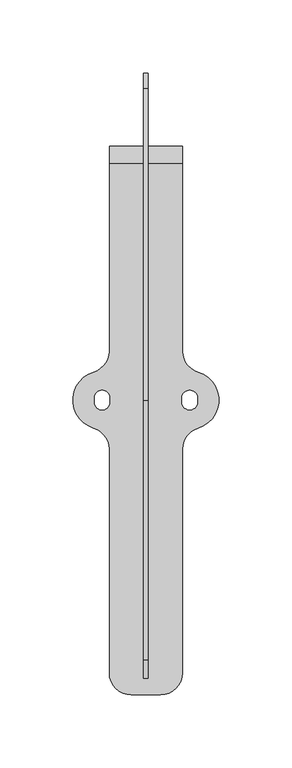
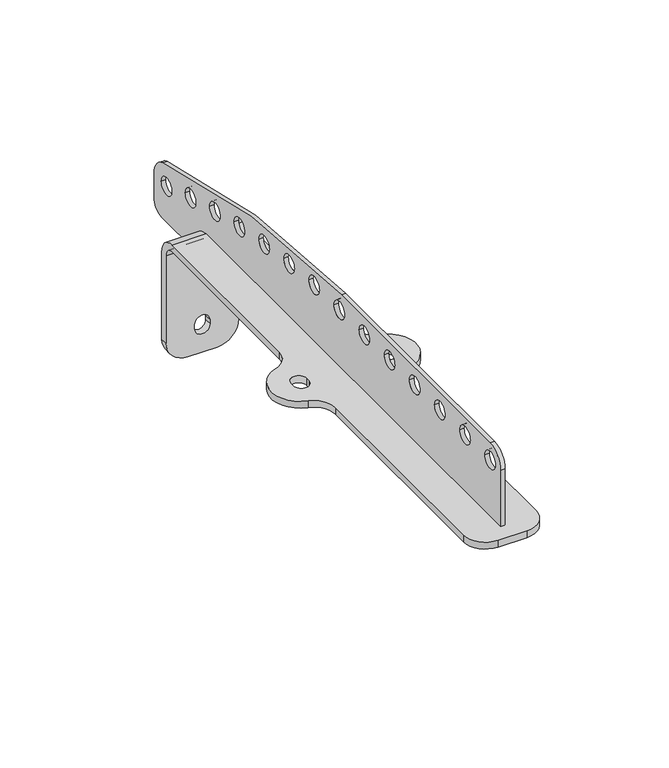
"""IFC4 building model written with IfcOpenShell, lengths in millimetres: proxy geometry, d&b VP Flying Adapter : VP Flying Adapter."""

import ifcopenshell
import ifcopenshell.guid

model = None  # the IFC model being written
_history = None  # IfcOwnerHistory: only IFC2X3 demands one
_inside = {}  # id of a spatial element -> (the spatial element, [elements in it])
_under = {}  # id of a project, library or spatial element -> (it, [spatial elements below it])
_declared = {}  # id of a project -> (the project, [libraries it declares])
_typed = {}  # id of a type object -> (the type object, [elements of that type])
_made_of = {}  # id of a material, layer set ... -> (it, [elements and type objects made of it])


def new_model(schema):
    """Start an empty IFC model of exactly this schema.

    Asked for "IFC4X3", IfcOpenShell would pick the latest addendum, in which some entities
    have other attributes; the version numbers below select the first issue.
    IFC2X3 requires an IfcOwnerHistory on every rooted entity: one is made here for all.
    """
    global model, _history
    if schema == "IFC4X3":
        model = ifcopenshell.file(schema_version=(4, 3, 0, 0))
    else:
        model = ifcopenshell.file(schema=schema)
    _inside.clear()
    _under.clear()
    _declared.clear()
    _typed.clear()
    _made_of.clear()
    _history = None
    if model.schema == "IFC2X3":
        org = make("IfcOrganization", Name="unknown")
        user = make(
            "IfcPersonAndOrganization",
            ThePerson=make("IfcPerson", FamilyName="unknown"),
            TheOrganization=org,
        )
        app = make(
            "IfcApplication",
            ApplicationDeveloper=org,
            Version="unknown",
            ApplicationFullName="unknown",
            ApplicationIdentifier="unknown",
        )
        _history = make(
            "IfcOwnerHistory",
            OwningUser=user,
            OwningApplication=app,
            ChangeAction="ADDED",
            CreationDate=0,
        )
    return model


def make(cls, **values):
    """One entity of the class cls with the attributes given. An attribute that is None is left unset."""
    return model.create_entity(
        cls, **{name: value for name, value in values.items() if value is not None}
    )


def rooted(cls, **values):
    """An entity with a GlobalId (a new one), such as an element, a storey or a relation."""
    return make(cls, GlobalId=ifcopenshell.guid.new(), OwnerHistory=_history, **values)


def si_unit(unit_type, name, prefix=None):
    """IfcSIUnit, for example si_unit("LENGTHUNIT", "METRE", prefix="MILLI")."""
    return make("IfcSIUnit", UnitType=unit_type, Prefix=prefix, Name=name)


def assignment(units):
    """IfcUnitAssignment: the units of a project."""
    return None if units is None else make("IfcUnitAssignment", Units=units)


def point(xyz):
    """IfcCartesianPoint."""
    return None if xyz is None else make("IfcCartesianPoint", Coordinates=xyz)


def direction(xyz):
    """IfcDirection."""
    return None if xyz is None else make("IfcDirection", DirectionRatios=xyz)


def frame(location, z_axis=None, x_axis=None):
    """IfcAxis2Placement3D, a coordinate frame: its origin and axes. An axis left out is left unset."""
    return make(
        "IfcAxis2Placement3D",
        Location=point(location),
        Axis=direction(z_axis),
        RefDirection=direction(x_axis),
    )


def origin():
    """The frame at (0, 0, 0) with its axes left unset."""
    return frame((0.0, 0.0, 0.0))


def place(relative_to, where):
    """IfcLocalPlacement: puts the frame where relative to a parent placement (None: the world)."""
    return make(
        "IfcLocalPlacement", PlacementRelTo=relative_to, RelativePlacement=where
    )


def context(
    kind, dimensions, precision=None, world=None, true_north=None, identifier=None
):
    """IfcGeometricRepresentationContext, for example the 3D "Model" context."""
    return make(
        "IfcGeometricRepresentationContext",
        ContextIdentifier=identifier,
        ContextType=kind,
        CoordinateSpaceDimension=dimensions,
        Precision=precision,
        WorldCoordinateSystem=world,
        TrueNorth=true_north,
    )


def project(units=None, contexts=None):
    """IfcProject with its units and contexts."""
    return rooted(
        "IfcProject",
        Name="project",
        RepresentationContexts=contexts,
        UnitsInContext=assignment(units),
    )


def spatial(cls, under=None, at=None, **own):
    """A site, building, storey or space (cls), placed at a placement, below another one or the project."""
    s = rooted(cls, ObjectPlacement=at, **own)
    if under is not None:
        _under.setdefault(under.id(), (under, []))[1].append(s)
    return s


def polyline(points):
    """IfcPolyline through the points."""
    return make("IfcPolyline", Points=[point(p) for p in points])


def circle_curve(where, radius):
    """IfcCircle in the frame where."""
    return make("IfcCircle", Position=where, Radius=radius)


def shape(context_of_items, identifier, shape_type, items):
    """IfcShapeRepresentation: the items that make up one representation, for example the "Body"."""
    return make(
        "IfcShapeRepresentation",
        ContextOfItems=context_of_items,
        RepresentationIdentifier=identifier,
        RepresentationType=shape_type,
        Items=items,
    )


def source(mapping_origin, context_of_items, identifier, shape_type, items):
    """IfcRepresentationMap: a shape defined once, which mapped items show again and again."""
    return make(
        "IfcRepresentationMap",
        MappingOrigin=mapping_origin,
        MappedRepresentation=shape(context_of_items, identifier, shape_type, items),
    )


def transform(
    local_origin,
    x_axis=None,
    y_axis=None,
    z_axis=None,
    scale=None,
    scale2=None,
    scale3=None,
    uniform=True,
):
    """IfcCartesianTransformationOperator3D, or its non-uniform kind. x_axis, y_axis, z_axis: its Axis1, 2, 3."""
    if uniform:
        return make(
            "IfcCartesianTransformationOperator3D",
            Axis1=direction(x_axis),
            Axis2=direction(y_axis),
            LocalOrigin=point(local_origin),
            Scale=scale,
            Axis3=direction(z_axis),
        )
    return make(
        "IfcCartesianTransformationOperator3DnonUniform",
        Axis1=direction(x_axis),
        Axis2=direction(y_axis),
        LocalOrigin=point(local_origin),
        Scale=scale,
        Axis3=direction(z_axis),
        Scale2=scale2,
        Scale3=scale3,
    )


def mapped(mapping_source, mapping_target):
    """IfcMappedItem: shows the shape of a source again, moved by a transform."""
    return make(
        "IfcMappedItem", MappingSource=mapping_source, MappingTarget=mapping_target
    )


def made_of(thing, what):
    """Note that an element or type object is made of a material, layer set ...; save() writes the relation."""
    if what is not None:
        _made_of.setdefault(what.id(), (what, []))[1].append(thing)
    return thing


def element(
    cls,
    number,
    at=None,
    inside=None,
    cuts=None,
    type_object=None,
    material=None,
    context=None,
    identifier="Body",
    shape_type=None,
    held_by="IfcProductDefinitionShape",
    body=None,
    shapes=None,
    **own,
):
    """One element of the class cls, such as IfcWall. Its Tag is "e" and its number.

    at: its placement. inside: the storey or other place that contains it. cuts: it is an
    opening in that element (IfcRelVoidsElement). A single representation is given by context,
    identifier, shape_type and body (its items); several are given by shapes. held_by: the class
    of the entity that holds the representations. save() writes the other relations.
    """
    e = rooted(cls, Tag="e%d" % number, ObjectPlacement=at, **own)
    if body is not None:
        shapes = [shape(context, identifier, shape_type, body)]
    if shapes is not None:
        e.Representation = make(held_by, Representations=shapes)
    if inside is not None:
        _inside.setdefault(inside.id(), (inside, []))[1].append(e)
    if cuts is not None:
        rooted(
            "IfcRelVoidsElement", RelatingBuildingElement=cuts, RelatedOpeningElement=e
        )
    if type_object is not None:
        _typed.setdefault(type_object.id(), (type_object, []))[1].append(e)
    return made_of(e, material)


def aggregate(whole, parts):
    """IfcRelAggregates: a whole, such as a stair, and the parts it consists of."""
    return rooted("IfcRelAggregates", RelatingObject=whole, RelatedObjects=parts)


def save(model, path):
    """Write the relations noted so far, then the file.

    IfcRelAggregates (storeys below a building ...), IfcRelContainedInSpatialStructure (elements
    in a storey), IfcRelDefinesByType, IfcRelAssociatesMaterial and IfcRelDeclares: one each for
    every whole, place, type object, material and project.
    """
    for whole, parts in _under.values():
        aggregate(whole, parts)
    for where, things in _inside.values():
        rooted(
            "IfcRelContainedInSpatialStructure",
            RelatedElements=things,
            RelatingStructure=where,
        )
    for kind, things in _typed.values():
        rooted("IfcRelDefinesByType", RelatedObjects=things, RelatingType=kind)
    for what, things in _made_of.values():
        rooted("IfcRelAssociatesMaterial", RelatedObjects=things, RelatingMaterial=what)
    for by, libraries in _declared.values():
        rooted("IfcRelDeclares", RelatingContext=by, RelatedDefinitions=libraries)
    model.write(path)


def plane_surface(at):
    """IfcPlane: the flat surface through the origin of the frame at, square to its z axis."""
    return make("IfcPlane", Position=at)


def cylinder_surface(at, radius):
    """IfcCylindricalSurface: all points at the distance radius from the z axis of the frame at."""
    return make("IfcCylindricalSurface", Position=at, Radius=radius)


def revolved_surface(curve, axis_point, axis_direction):
    """IfcSurfaceOfRevolution: the curve turned about the line through axis_point along axis_direction."""
    return make(
        "IfcSurfaceOfRevolution",
        SweptCurve=make("IfcArbitraryOpenProfileDef", ProfileType="CURVE", Curve=curve),
        AxisPosition=make("IfcAxis1Placement", Location=point(axis_point), Axis=direction(axis_direction)),
    )


def advanced_brep(points, edges, surfaces, faces):
    """IfcAdvancedBrep: a solid bounded by faces that lie on surfaces and meet in shared edges.

    An edge is (start, end): straight between two places in points (the first is 0);
    or (start, end, curve); or (start, end, curve, False) where it runs against its curve.
    A face is (place in surfaces, loops), or (place, loops, False) where it looks against
    its surface's normal. A loop lists edges by number (the first is 1), with a minus sign
    where the edge is run from its end to its start. The first loop is the outer one.
    """
    corners = [point(p) for p in points]
    vertices = [make("IfcVertexPoint", VertexGeometry=c) for c in corners]
    made = []
    for start, end, *more in edges:
        made.append(
            make(
                "IfcEdgeCurve",
                EdgeStart=vertices[start],
                EdgeEnd=vertices[end],
                EdgeGeometry=more[0] if more else make("IfcPolyline", Points=[corners[start], corners[end]]),
                SameSense=more[1] if len(more) > 1 else True,
            )
        )
    hull = []
    for where, loops, *sense in faces:
        bounds = []
        for j, loop in enumerate(loops):
            ring = [make("IfcOrientedEdge", EdgeElement=made[abs(k) - 1], Orientation=k > 0) for k in loop]
            bounds.append(
                make(
                    "IfcFaceOuterBound" if j == 0 else "IfcFaceBound",
                    Bound=make("IfcEdgeLoop", EdgeList=ring),
                    Orientation=True,
                )
            )
        hull.append(make("IfcAdvancedFace", Bounds=bounds, FaceSurface=surfaces[where], SameSense=sense[0] if sense else True))
    return make("IfcAdvancedBrep", Outer=make("IfcClosedShell", CfsFaces=hull))


def communication_devices_dab139d3(model_context):
    return source(origin(), model_context, "Body", "AdvancedBrep", [
        advanced_brep(
        [(25.0, 33.5410197, 5.0), (25.0, 161.5, 5.0), (1.5, 161.5, 5.0), (1.5, -190.0, 5.0), (-1.5, -190.0, 5.0), (-1.5, 161.5, 5.0), (-25.0, 161.5, 5.0), (-25.0, 33.5410197, 5.0), (-35.7142857, 19.1662969, 5.0), (-35.7142857, -19.166297, 5.0), (-25.0, -33.5410197, 5.0), (-25.0, -186.5, 5.0), (-10.0, -201.5, 5.0), (10.0, -201.5, 5.0), (25.0, -186.5, 5.0), (25.0, -33.5410197, 5.0), (35.7142857, -19.166297, 5.0), (35.7142857, 19.1662969, 5.0), (-35.25, -1.5, 5.0), (-35.25, 1.5, 5.0), (-24.75, 1.5, 5.0), (-24.75, -1.5, 5.0), (35.25, -1.5, 5.0), (24.75, -1.5, 5.0), (24.75, 1.5, 5.0), (35.25, 1.5, 5.0), (25.0, 33.5410197, 0.0), (35.7142857, 19.1662969, 0.0), (35.7142857, -19.166297, 0.0), (25.0, -33.5410197, 0.0), (25.0, -186.5, 0.0), (10.0, -201.5, 0.0), (-10.0, -201.5, 0.0), (-25.0, -186.5, 0.0), (-25.0, -33.5410197, 0.0), (-35.7142857, -19.166297, 0.0), (-35.7142857, 19.1662969, 0.0), (-25.0, 33.5410197, 0.0), (-25.0, 161.5, 0.0), (25.0, 161.5, 0.0), (-35.25, -1.5, 0.0), (-24.75, -1.5, 0.0), (-24.75, 1.5, 0.0), (-35.25, 1.5, 0.0), (35.25, -1.5, 0.0), (35.25, 1.5, 0.0), (24.75, 1.5, 0.0), (24.75, -1.5, 0.0), (25.0, 168.5, -7.0), (25.0, 168.5, -70.75), (25.0, 173.5, -70.75), (25.0, 173.5, -7.0), (-25.0, 173.5, -7.0), (-25.0, 173.5, -70.75), (-25.0, 168.5, -70.75), (-25.0, 168.5, -7.0), (1.5, 173.5, -15.0), (1.5, 214.5515829, -15.0), (1.5, 223.5515829, -6.0), (1.5, 223.5515829, 10.978826), (1.5, 213.1183833, 25.2667347), (1.5, 0.0010324, 58.4976632), (1.5, -177.5, 58.4976632), (1.5, -190.0, 45.9976632), (1.5, 173.5, -7.0), (1.5, -171.25, 45.9976632), (1.5, -183.75, 45.9976632), (1.5, -141.25, 45.9976632), (1.5, -153.75, 45.9976632), (1.5, -111.25, 45.9976632), (1.5, -123.75, 45.9976632), (1.5, -81.25, 45.9976632), (1.5, -93.75, 45.9976632), (1.5, -51.25, 45.9976632), (1.5, -63.75, 45.9976632), (1.5, -21.25, 45.9976632), (1.5, -33.75, 45.9976632), (1.5, 8.75, 45.9976632), (1.5, -3.75, 45.9976632), (1.5, 38.75, 45.9976632), (1.5, 26.25, 45.9976632), (1.5, 68.6358409, 43.3829909), (1.5, 56.1358409, 43.3829909), (1.5, 98.3791868, 39.4672051), (1.5, 85.8791868, 39.4672051), (1.5, 127.9234194, 34.2577598), (1.5, 115.4234194, 34.2577598), (1.5, 157.2122996, 27.7645714), (1.5, 144.7122996, 27.7645714), (1.5, 186.1900744, 20.0), (1.5, 173.6900744, 20.0), (1.5, 214.8015829, 10.978826), (1.5, 202.3015829, 10.978826), (-1.5, -190.0, 45.9976632), (-1.5, -177.5, 58.4976632), (-1.5, 0.0010324, 58.4976632), (-1.5, 213.1183833, 25.2667347), (-1.5, 223.5515829, 10.978826), (-1.5, 223.5515829, -6.0), (-1.5, 214.5515829, -15.0), (-1.5, 173.5, -15.0), (-1.5, 173.5, -7.0), (-1.5, -171.25, 45.9976632), (-1.5, -183.75, 45.9976632), (-1.5, -141.25, 45.9976632), (-1.5, -153.75, 45.9976632), (-1.5, -111.25, 45.9976632), (-1.5, -123.75, 45.9976632), (-1.5, -81.25, 45.9976632), (-1.5, -93.75, 45.9976632), (-1.5, -51.25, 45.9976632), (-1.5, -63.75, 45.9976632), (-1.5, -21.25, 45.9976632), (-1.5, -33.75, 45.9976632), (-1.5, 8.75, 45.9976632), (-1.5, -3.75, 45.9976632), (-1.5, 38.75, 45.9976632), (-1.5, 26.25, 45.9976632), (-1.5, 68.6358409, 43.3829909), (-1.5, 56.1358409, 43.3829909), (-1.5, 98.3791868, 39.4672051), (-1.5, 85.8791868, 39.4672051), (-1.5, 127.9234194, 34.2577598), (-1.5, 115.4234194, 34.2577598), (-1.5, 157.2122996, 27.7645714), (-1.5, 144.7122996, 27.7645714), (-1.5, 186.1900744, 20.0), (-1.5, 173.6900744, 20.0), (-1.5, 214.8015829, 10.978826), (-1.5, 202.3015829, 10.978826), (10.0, 173.5, -85.75), (-10.0, 173.5, -85.75), (-5.25, 173.5, -67.25), (5.25, 173.5, -67.25), (5.25, 173.5, -64.25), (-5.25, 173.5, -64.25), (10.0, 168.5, -85.75), (-10.0, 168.5, -85.75), (-5.25, 168.5, -67.25), (-5.25, 168.5, -64.25), (5.25, 168.5, -64.25), (5.25, 168.5, -67.25)],
        [
            (0, 1),
            (1, 2),
            (2, 3),
            (3, 4),
            (4, 5),
            (5, 6),
            (6, 7),
            (7, 8, circle_curve(frame((-40.0, 33.5410197, 5.0), z_axis=(0.0, 0.0, -1.0), x_axis=(1.0, 0.0, 0.0)), 15.0)),
            (8, 9, circle_curve(frame((-30.0, 0.0, 5.0), z_axis=(0.0, 0.0, 1.0), x_axis=(-1.0, 0.0, 0.0)), 20.0)),
            (9, 10, circle_curve(frame((-40.0, -33.5410197, 5.0), z_axis=(0.0, 0.0, -1.0), x_axis=(1.0, 0.0, 0.0)), 15.0)),
            (10, 11),
            (11, 12, circle_curve(frame((-10.0, -186.5, 5.0), z_axis=(0.0, 0.0, 1.0), x_axis=(1.0, 0.0, 0.0)), 15.0)),
            (12, 13),
            (13, 14, circle_curve(frame((10.0, -186.5, 5.0), z_axis=(0.0, 0.0, 1.0), x_axis=(1.0, 0.0, 0.0)), 15.0)),
            (14, 15),
            (15, 16, circle_curve(frame((40.0, -33.5410197, 5.0), z_axis=(0.0, 0.0, -1.0), x_axis=(-1.0, 0.0, 0.0)), 15.0)),
            (16, 17, circle_curve(frame((30.0, 0.0, 5.0), z_axis=(0.0, 0.0, 1.0), x_axis=(1.0, 0.0, 0.0)), 20.0)),
            (17, 0, circle_curve(frame((40.0, 33.5410197, 5.0), z_axis=(0.0, 0.0, -1.0), x_axis=(-1.0, 0.0, 0.0)), 15.0)),
            (18, 19),
            (19, 20, circle_curve(frame((-30.0, 1.5, 5.0), z_axis=(0.0, 0.0, -1.0), x_axis=(1.0, 0.0, 0.0)), 5.25)),
            (20, 21),
            (21, 18, circle_curve(frame((-30.0, -1.5, 5.0), z_axis=(0.0, 0.0, -1.0), x_axis=(1.0, 0.0, 0.0)), 5.25)),
            (22, 23, circle_curve(frame((30.0, -1.5, 5.0), z_axis=(0.0, 0.0, -1.0), x_axis=(-1.0, 0.0, 0.0)), 5.25)),
            (23, 24),
            (24, 25, circle_curve(frame((30.0, 1.5, 5.0), z_axis=(0.0, 0.0, -1.0), x_axis=(-1.0, 0.0, 0.0)), 5.25)),
            (25, 22),
            (26, 27, circle_curve(frame((40.0, 33.5410197, 0.0), z_axis=(0.0, 0.0, 1.0), x_axis=(-1.0, 0.0, 0.0)), 15.0)),
            (27, 28, circle_curve(frame((30.0, 0.0, 0.0), z_axis=(0.0, 0.0, -1.0), x_axis=(1.0, 0.0, 0.0)), 20.0)),
            (28, 29, circle_curve(frame((40.0, -33.5410197, 0.0), z_axis=(0.0, 0.0, 1.0), x_axis=(-1.0, 0.0, 0.0)), 15.0)),
            (29, 30),
            (30, 31, circle_curve(frame((10.0, -186.5, 0.0), z_axis=(0.0, 0.0, -1.0), x_axis=(1.0, 0.0, 0.0)), 15.0)),
            (31, 32),
            (32, 33, circle_curve(frame((-10.0, -186.5, 0.0), z_axis=(0.0, 0.0, -1.0), x_axis=(1.0, 0.0, 0.0)), 15.0)),
            (33, 34),
            (34, 35, circle_curve(frame((-40.0, -33.5410197, 0.0), z_axis=(0.0, 0.0, 1.0), x_axis=(1.0, 0.0, 0.0)), 15.0)),
            (35, 36, circle_curve(frame((-30.0, 0.0, 0.0), z_axis=(0.0, 0.0, -1.0), x_axis=(-1.0, 0.0, 0.0)), 20.0)),
            (36, 37, circle_curve(frame((-40.0, 33.5410197, 0.0), z_axis=(0.0, 0.0, 1.0), x_axis=(1.0, 0.0, 0.0)), 15.0)),
            (37, 38),
            (38, 39),
            (39, 26),
            (40, 41, circle_curve(frame((-30.0, -1.5, 0.0), z_axis=(0.0, 0.0, 1.0), x_axis=(1.0, 0.0, 0.0)), 5.25)),
            (41, 42),
            (42, 43, circle_curve(frame((-30.0, 1.5, 0.0), z_axis=(0.0, 0.0, 1.0), x_axis=(1.0, 0.0, 0.0)), 5.25)),
            (43, 40),
            (44, 45),
            (45, 46, circle_curve(frame((30.0, 1.5, 0.0), z_axis=(0.0, 0.0, 1.0), x_axis=(-1.0, 0.0, 0.0)), 5.25)),
            (46, 47),
            (47, 44, circle_curve(frame((30.0, -1.5, 0.0), z_axis=(0.0, 0.0, 1.0), x_axis=(-1.0, 0.0, 0.0)), 5.25)),
            (0, 26),
            (39, 48, circle_curve(frame((25.0, 161.5, -7.0), z_axis=(-1.0, 0.0, 0.0), x_axis=(0.0, -1.0, 0.0)), 7.0)),
            (48, 49),
            (49, 50),
            (50, 51),
            (51, 1, circle_curve(frame((25.0, 161.5, -7.0), z_axis=(1.0, 0.0, 0.0), x_axis=(0.0, 1.0, 0.0)), 12.0)),
            (6, 52, circle_curve(frame((-25.0, 161.5, -7.0), z_axis=(-1.0, 0.0, 0.0), x_axis=(0.0, 1.0, 0.0)), 12.0)),
            (52, 53),
            (53, 54),
            (54, 55),
            (55, 38, circle_curve(frame((-25.0, 161.5, -7.0), z_axis=(1.0, 0.0, 0.0), x_axis=(0.0, -1.0, 0.0)), 7.0)),
            (37, 7),
            (36, 8),
            (35, 9),
            (34, 10),
            (33, 11),
            (32, 12),
            (31, 13),
            (30, 14),
            (29, 15),
            (28, 16),
            (27, 17),
            (18, 40),
            (43, 19),
            (42, 20),
            (41, 21),
            (22, 44),
            (47, 23),
            (46, 24),
            (45, 25),
            (56, 57),
            (57, 58, circle_curve(frame((1.5, 214.5515829, -6.0), z_axis=(1.0, 0.0, 0.0), x_axis=(0.0, -1.0, 0.0)), 9.0)),
            (58, 59),
            (59, 60, circle_curve(frame((1.5, 208.5515829, 10.978826), z_axis=(1.0, 0.0, 0.0), x_axis=(0.0, -1.0, 0.0)), 15.0)),
            (60, 61, circle_curve(frame((1.5, 0.0010324, -641.5023368), z_axis=(1.0, 0.0, 0.0), x_axis=(0.0, -1.0, 0.0)), 700.0)),
            (61, 62),
            (62, 63, circle_curve(frame((1.5, -177.5, 45.9976632), z_axis=(1.0, 0.0, 0.0), x_axis=(0.0, -1.0, 0.0)), 12.5)),
            (63, 3),
            (2, 64, circle_curve(frame((1.5, 161.5, -7.0), z_axis=(-1.0, 0.0, 0.0), x_axis=(0.0, 1.0, 0.0)), 12.0)),
            (64, 56),
            (65, 66, circle_curve(frame((1.5, -177.5, 45.9976632), z_axis=(-1.0, 0.0, 0.0), x_axis=(0.0, -1.0, 0.0)), 6.25)),
            (66, 65, circle_curve(frame((1.5, -177.5, 45.9976632), z_axis=(-1.0, 0.0, 0.0), x_axis=(0.0, -1.0, 0.0)), 6.25)),
            (67, 68, circle_curve(frame((1.5, -147.5, 45.9976632), z_axis=(-1.0, 0.0, 0.0), x_axis=(0.0, -1.0, 0.0)), 6.25)),
            (68, 67, circle_curve(frame((1.5, -147.5, 45.9976632), z_axis=(-1.0, 0.0, 0.0), x_axis=(0.0, -1.0, 0.0)), 6.25)),
            (69, 70, circle_curve(frame((1.5, -117.5, 45.9976632), z_axis=(-1.0, 0.0, 0.0), x_axis=(0.0, -1.0, 0.0)), 6.25)),
            (70, 69, circle_curve(frame((1.5, -117.5, 45.9976632), z_axis=(-1.0, 0.0, 0.0), x_axis=(0.0, -1.0, 0.0)), 6.25)),
            (71, 72, circle_curve(frame((1.5, -87.5, 45.9976632), z_axis=(-1.0, 0.0, 0.0), x_axis=(0.0, -1.0, 0.0)), 6.25)),
            (72, 71, circle_curve(frame((1.5, -87.5, 45.9976632), z_axis=(-1.0, 0.0, 0.0), x_axis=(0.0, -1.0, 0.0)), 6.25)),
            (73, 74, circle_curve(frame((1.5, -57.5, 45.9976632), z_axis=(-1.0, 0.0, 0.0), x_axis=(0.0, -1.0, 0.0)), 6.25)),
            (74, 73, circle_curve(frame((1.5, -57.5, 45.9976632), z_axis=(-1.0, 0.0, 0.0), x_axis=(0.0, -1.0, 0.0)), 6.25)),
            (75, 76, circle_curve(frame((1.5, -27.5, 45.9976632), z_axis=(-1.0, 0.0, 0.0), x_axis=(0.0, -1.0, 0.0)), 6.25)),
            (76, 75, circle_curve(frame((1.5, -27.5, 45.9976632), z_axis=(-1.0, 0.0, 0.0), x_axis=(0.0, -1.0, 0.0)), 6.25)),
            (77, 78, circle_curve(frame((1.5, 2.5, 45.9976632), z_axis=(-1.0, 0.0, 0.0), x_axis=(0.0, -1.0, 0.0)), 6.25)),
            (78, 77, circle_curve(frame((1.5, 2.5, 45.9976632), z_axis=(-1.0, 0.0, 0.0), x_axis=(0.0, -1.0, 0.0)), 6.25)),
            (79, 80, circle_curve(frame((1.5, 32.5, 45.9976632), z_axis=(-1.0, 0.0, 0.0), x_axis=(0.0, -1.0, 0.0)), 6.25)),
            (80, 79, circle_curve(frame((1.5, 32.5, 45.9976632), z_axis=(-1.0, 0.0, 0.0), x_axis=(0.0, -1.0, 0.0)), 6.25)),
            (81, 82, circle_curve(frame((1.5, 62.3858409, 43.3829909), z_axis=(-1.0, 0.0, 0.0), x_axis=(0.0, -1.0, 0.0)), 6.25)),
            (82, 81, circle_curve(frame((1.5, 62.3858409, 43.3829909), z_axis=(-1.0, 0.0, 0.0), x_axis=(0.0, -1.0, 0.0)), 6.25)),
            (83, 84, circle_curve(frame((1.5, 92.1291868, 39.4672051), z_axis=(-1.0, 0.0, 0.0), x_axis=(0.0, -1.0, 0.0)), 6.25)),
            (84, 83, circle_curve(frame((1.5, 92.1291868, 39.4672051), z_axis=(-1.0, 0.0, 0.0), x_axis=(0.0, -1.0, 0.0)), 6.25)),
            (85, 86, circle_curve(frame((1.5, 121.6734194, 34.2577598), z_axis=(-1.0, 0.0, 0.0), x_axis=(0.0, -1.0, 0.0)), 6.25)),
            (86, 85, circle_curve(frame((1.5, 121.6734194, 34.2577598), z_axis=(-1.0, 0.0, 0.0), x_axis=(0.0, -1.0, 0.0)), 6.25)),
            (87, 88, circle_curve(frame((1.5, 150.9622996, 27.7645714), z_axis=(-1.0, 0.0, 0.0), x_axis=(0.0, -1.0, 0.0)), 6.25)),
            (88, 87, circle_curve(frame((1.5, 150.9622996, 27.7645714), z_axis=(-1.0, 0.0, 0.0), x_axis=(0.0, -1.0, 0.0)), 6.25)),
            (89, 90, circle_curve(frame((1.5, 179.9400744, 20.0), z_axis=(-1.0, 0.0, 0.0), x_axis=(0.0, -1.0, 0.0)), 6.25)),
            (90, 89, circle_curve(frame((1.5, 179.9400744, 20.0), z_axis=(-1.0, 0.0, 0.0), x_axis=(0.0, -1.0, 0.0)), 6.25)),
            (91, 92, circle_curve(frame((1.5, 208.5515829, 10.978826), z_axis=(-1.0, 0.0, 0.0), x_axis=(0.0, -1.0, 0.0)), 6.25)),
            (92, 91, circle_curve(frame((1.5, 208.5515829, 10.978826), z_axis=(-1.0, 0.0, 0.0), x_axis=(0.0, -1.0, 0.0)), 6.25)),
            (4, 93),
            (93, 94, circle_curve(frame((-1.5, -177.5, 45.9976632), z_axis=(-1.0, 0.0, 0.0), x_axis=(0.0, -1.0, 0.0)), 12.5)),
            (94, 95),
            (95, 96, circle_curve(frame((-1.5, 0.0010324, -641.5023368), z_axis=(-1.0, 0.0, 0.0), x_axis=(0.0, -1.0, 0.0)), 700.0)),
            (96, 97, circle_curve(frame((-1.5, 208.5515829, 10.978826), z_axis=(-1.0, 0.0, 0.0), x_axis=(0.0, -1.0, 0.0)), 15.0)),
            (97, 98),
            (98, 99, circle_curve(frame((-1.5, 214.5515829, -6.0), z_axis=(-1.0, 0.0, 0.0), x_axis=(0.0, -1.0, 0.0)), 9.0)),
            (99, 100),
            (100, 101),
            (101, 5, circle_curve(frame((-1.5, 161.5, -7.0), z_axis=(1.0, 0.0, 0.0), x_axis=(0.0, 1.0, 0.0)), 12.0)),
            (102, 103, circle_curve(frame((-1.5, -177.5, 45.9976632), z_axis=(1.0, 0.0, 0.0), x_axis=(0.0, -1.0, 0.0)), 6.25)),
            (103, 102, circle_curve(frame((-1.5, -177.5, 45.9976632), z_axis=(1.0, 0.0, 0.0), x_axis=(0.0, -1.0, 0.0)), 6.25)),
            (104, 105, circle_curve(frame((-1.5, -147.5, 45.9976632), z_axis=(1.0, 0.0, 0.0), x_axis=(0.0, -1.0, 0.0)), 6.25)),
            (105, 104, circle_curve(frame((-1.5, -147.5, 45.9976632), z_axis=(1.0, 0.0, 0.0), x_axis=(0.0, -1.0, 0.0)), 6.25)),
            (106, 107, circle_curve(frame((-1.5, -117.5, 45.9976632), z_axis=(1.0, 0.0, 0.0), x_axis=(0.0, -1.0, 0.0)), 6.25)),
            (107, 106, circle_curve(frame((-1.5, -117.5, 45.9976632), z_axis=(1.0, 0.0, 0.0), x_axis=(0.0, -1.0, 0.0)), 6.25)),
            (108, 109, circle_curve(frame((-1.5, -87.5, 45.9976632), z_axis=(1.0, 0.0, 0.0), x_axis=(0.0, -1.0, 0.0)), 6.25)),
            (109, 108, circle_curve(frame((-1.5, -87.5, 45.9976632), z_axis=(1.0, 0.0, 0.0), x_axis=(0.0, -1.0, 0.0)), 6.25)),
            (110, 111, circle_curve(frame((-1.5, -57.5, 45.9976632), z_axis=(1.0, 0.0, 0.0), x_axis=(0.0, -1.0, 0.0)), 6.25)),
            (111, 110, circle_curve(frame((-1.5, -57.5, 45.9976632), z_axis=(1.0, 0.0, 0.0), x_axis=(0.0, -1.0, 0.0)), 6.25)),
            (112, 113, circle_curve(frame((-1.5, -27.5, 45.9976632), z_axis=(1.0, 0.0, 0.0), x_axis=(0.0, -1.0, 0.0)), 6.25)),
            (113, 112, circle_curve(frame((-1.5, -27.5, 45.9976632), z_axis=(1.0, 0.0, 0.0), x_axis=(0.0, -1.0, 0.0)), 6.25)),
            (114, 115, circle_curve(frame((-1.5, 2.5, 45.9976632), z_axis=(1.0, 0.0, 0.0), x_axis=(0.0, -1.0, 0.0)), 6.25)),
            (115, 114, circle_curve(frame((-1.5, 2.5, 45.9976632), z_axis=(1.0, 0.0, 0.0), x_axis=(0.0, -1.0, 0.0)), 6.25)),
            (116, 117, circle_curve(frame((-1.5, 32.5, 45.9976632), z_axis=(1.0, 0.0, 0.0), x_axis=(0.0, -1.0, 0.0)), 6.25)),
            (117, 116, circle_curve(frame((-1.5, 32.5, 45.9976632), z_axis=(1.0, 0.0, 0.0), x_axis=(0.0, -1.0, 0.0)), 6.25)),
            (118, 119, circle_curve(frame((-1.5, 62.3858409, 43.3829909), z_axis=(1.0, 0.0, 0.0), x_axis=(0.0, -1.0, 0.0)), 6.25)),
            (119, 118, circle_curve(frame((-1.5, 62.3858409, 43.3829909), z_axis=(1.0, 0.0, 0.0), x_axis=(0.0, -1.0, 0.0)), 6.25)),
            (120, 121, circle_curve(frame((-1.5, 92.1291868, 39.4672051), z_axis=(1.0, 0.0, 0.0), x_axis=(0.0, -1.0, 0.0)), 6.25)),
            (121, 120, circle_curve(frame((-1.5, 92.1291868, 39.4672051), z_axis=(1.0, 0.0, 0.0), x_axis=(0.0, -1.0, 0.0)), 6.25)),
            (122, 123, circle_curve(frame((-1.5, 121.6734194, 34.2577598), z_axis=(1.0, 0.0, 0.0), x_axis=(0.0, -1.0, 0.0)), 6.25)),
            (123, 122, circle_curve(frame((-1.5, 121.6734194, 34.2577598), z_axis=(1.0, 0.0, 0.0), x_axis=(0.0, -1.0, 0.0)), 6.25)),
            (124, 125, circle_curve(frame((-1.5, 150.9622996, 27.7645714), z_axis=(1.0, 0.0, 0.0), x_axis=(0.0, -1.0, 0.0)), 6.25)),
            (125, 124, circle_curve(frame((-1.5, 150.9622996, 27.7645714), z_axis=(1.0, 0.0, 0.0), x_axis=(0.0, -1.0, 0.0)), 6.25)),
            (126, 127, circle_curve(frame((-1.5, 179.9400744, 20.0), z_axis=(1.0, 0.0, 0.0), x_axis=(0.0, -1.0, 0.0)), 6.25)),
            (127, 126, circle_curve(frame((-1.5, 179.9400744, 20.0), z_axis=(1.0, 0.0, 0.0), x_axis=(0.0, -1.0, 0.0)), 6.25)),
            (128, 129, circle_curve(frame((-1.5, 208.5515829, 10.978826), z_axis=(1.0, 0.0, 0.0), x_axis=(0.0, -1.0, 0.0)), 6.25)),
            (129, 128, circle_curve(frame((-1.5, 208.5515829, 10.978826), z_axis=(1.0, 0.0, 0.0), x_axis=(0.0, -1.0, 0.0)), 6.25)),
            (65, 102),
            (103, 66),
            (56, 100),
            (99, 57),
            (98, 58),
            (97, 59),
            (96, 60),
            (95, 61),
            (94, 62),
            (93, 63),
            (67, 104),
            (105, 68),
            (69, 106),
            (107, 70),
            (71, 108),
            (109, 72),
            (73, 110),
            (111, 74),
            (75, 112),
            (113, 76),
            (77, 114),
            (115, 78),
            (79, 116),
            (117, 80),
            (81, 118),
            (119, 82),
            (83, 120),
            (121, 84),
            (85, 122),
            (123, 86),
            (87, 124),
            (125, 88),
            (89, 126),
            (127, 90),
            (91, 128),
            (129, 92),
            (51, 64),
            (101, 52),
            (55, 48),
            (130, 131),
            (131, 53, circle_curve(frame((-10.0, 173.5, -70.75), z_axis=(0.0, 1.0, 0.0), x_axis=(1.0, 0.0, 0.0)), 15.0)),
            (50, 130, circle_curve(frame((10.0, 173.5, -70.75), z_axis=(0.0, 1.0, 0.0), x_axis=(1.0, 0.0, 0.0)), 15.0)),
            (132, 133, circle_curve(frame((0.0, 173.5, -67.25), z_axis=(0.0, -1.0, 0.0), x_axis=(1.0, 0.0, 0.0)), 5.25)),
            (133, 134),
            (134, 135, circle_curve(frame((0.0, 173.5, -64.25), z_axis=(0.0, -1.0, 0.0), x_axis=(1.0, 0.0, 0.0)), 5.25)),
            (135, 132),
            (136, 49, circle_curve(frame((10.0, 168.5, -70.75), z_axis=(0.0, -1.0, 0.0), x_axis=(1.0, 0.0, 0.0)), 15.0)),
            (54, 137, circle_curve(frame((-10.0, 168.5, -70.75), z_axis=(0.0, -1.0, 0.0), x_axis=(1.0, 0.0, 0.0)), 15.0)),
            (137, 136),
            (138, 139),
            (139, 140, circle_curve(frame((0.0, 168.5, -64.25), z_axis=(0.0, 1.0, 0.0), x_axis=(1.0, 0.0, 0.0)), 5.25)),
            (140, 141),
            (141, 138, circle_curve(frame((0.0, 168.5, -67.25), z_axis=(0.0, 1.0, 0.0), x_axis=(1.0, 0.0, 0.0)), 5.25)),
            (130, 136),
            (137, 131),
            (132, 138),
            (141, 133),
            (140, 134),
            (139, 135),
        ],
        [
            plane_surface(frame((25.0, 173.5, 5.0), z_axis=(0.0, 0.0, 1.0), x_axis=(0.0, 1.0, 0.0))),
            plane_surface(frame((25.0, 173.5, 0.0), z_axis=(0.0, 0.0, -1.0), x_axis=(0.0, -1.0, 0.0))),
            plane_surface(frame((25.0, 33.5410197, 5.0), z_axis=(1.0, 0.0, 0.0), x_axis=(0.0, 0.0, -1.0))),
            plane_surface(frame((-25.0, 161.5, 5.0), z_axis=(-1.0, 0.0, 0.0), x_axis=(0.0, 0.0, -1.0))),
            revolved_surface(polyline([(-25.0, 33.5410197, 0.0), (-25.0, 33.5410197, 5.0)]), (-40.0, 33.5410197, 0.0), (0.0, 0.0, -1.0)),
            cylinder_surface(frame((-30.0, 0.0, 0.0), z_axis=(0.0, 0.0, 1.0), x_axis=(-1.0, 0.0, 0.0)), 20.0),
            revolved_surface(polyline([(-25.0, -33.5410197, 0.0), (-25.0, -33.5410197, 5.0)]), (-40.0, -33.5410197, 0.0), (0.0, 0.0, -1.0)),
            plane_surface(frame((-25.0, -33.5410197, 5.0), z_axis=(-1.0, 0.0, 0.0), x_axis=(0.0, 0.0, -1.0))),
            cylinder_surface(frame((-10.0, -186.5, 0.0), z_axis=(0.0, 0.0, 1.0), x_axis=(1.0, 0.0, 0.0)), 15.0),
            plane_surface(frame((-10.0, -201.5, 5.0), z_axis=(0.0, -1.0, 0.0), x_axis=(0.0, 0.0, -1.0))),
            cylinder_surface(frame((10.0, -186.5, 0.0), z_axis=(0.0, 0.0, 1.0), x_axis=(1.0, 0.0, 0.0)), 15.0),
            plane_surface(frame((25.0, -186.5, 5.0), z_axis=(1.0, 0.0, 0.0), x_axis=(0.0, 0.0, -1.0))),
            revolved_surface(polyline([(25.0, -33.5410197, 0.0), (25.0, -33.5410197, 5.0)]), (40.0, -33.5410197, 0.0), (0.0, 0.0, -1.0)),
            cylinder_surface(frame((30.0, 0.0, 0.0), z_axis=(0.0, 0.0, 1.0), x_axis=(1.0, 0.0, 0.0)), 20.0),
            revolved_surface(polyline([(25.0, 33.5410197, 0.0), (25.0, 33.5410197, 5.0)]), (40.0, 33.5410197, 0.0), (0.0, 0.0, -1.0)),
            plane_surface(frame((-35.25, -1.5, 5.0), z_axis=(1.0, 0.0, 0.0), x_axis=(0.0, 0.0, -1.0))),
            revolved_surface(polyline([(-24.75, 1.5, 0.0), (-24.75, 1.5, 5.0)]), (-30.0, 1.5, 0.0), (0.0, 0.0, -1.0)),
            plane_surface(frame((-24.75, 1.5, 5.0), z_axis=(-1.0, 0.0, 0.0), x_axis=(0.0, 0.0, -1.0))),
            revolved_surface(polyline([(-24.75, -1.5, 0.0), (-24.75, -1.5, 5.0)]), (-30.0, -1.5, 0.0), (0.0, 0.0, -1.0)),
            revolved_surface(polyline([(24.75, -1.5, 0.0), (24.75, -1.5, 5.0)]), (30.0, -1.5, 0.0), (0.0, 0.0, -1.0)),
            plane_surface(frame((24.75, -1.5, 5.0), z_axis=(1.0, 0.0, 0.0), x_axis=(0.0, 0.0, -1.0))),
            revolved_surface(polyline([(24.75, 1.5, 0.0), (24.75, 1.5, 5.0)]), (30.0, 1.5, 0.0), (0.0, 0.0, -1.0)),
            plane_surface(frame((35.25, 1.5, 5.0), z_axis=(-1.0, 0.0, 0.0), x_axis=(0.0, 0.0, -1.0))),
            plane_surface(frame((1.5, -183.75, 45.9976632), z_axis=(1.0, 0.0, 0.0), x_axis=(0.0, 0.0, 1.0))),
            plane_surface(frame((-1.5, -183.75, 45.9976632), z_axis=(-1.0, 0.0, 0.0), x_axis=(0.0, 0.0, -1.0))),
            revolved_surface(polyline([(-1.5, -183.75, 45.9976632), (1.5, -183.75, 45.9976632)]), (-1.5, -177.5, 45.9976632), (-1.0, 0.0, 0.0)),
            plane_surface(frame((1.5, 173.5, -15.0), z_axis=(0.0, 0.0, -1.0), x_axis=(-1.0, 0.0, 0.0))),
            cylinder_surface(frame((0.0, 214.5515829, -6.0), z_axis=(1.0, 0.0, 0.0), x_axis=(0.0, -1.0, 0.0)), 9.0),
            plane_surface(frame((1.5, 223.5515829, -6.0), z_axis=(0.0, 1.0, 0.0), x_axis=(-1.0, 0.0, 0.0))),
            cylinder_surface(frame((0.0, 208.5515829, 10.978826), z_axis=(1.0, 0.0, 0.0), x_axis=(0.0, -1.0, 0.0)), 15.0),
            cylinder_surface(frame((0.0, 0.0010324, -641.5023368), z_axis=(1.0, 0.0, 0.0), x_axis=(0.0, -1.0, 0.0)), 700.0),
            plane_surface(frame((1.5, 0.0010324, 58.4976632), z_axis=(0.0, 0.0, 1.0), x_axis=(-1.0, 0.0, 0.0))),
            cylinder_surface(frame((0.0, -177.5, 45.9976632), z_axis=(1.0, 0.0, 0.0), x_axis=(0.0, -1.0, 0.0)), 12.5),
            plane_surface(frame((1.5, -190.0, 45.9976632), z_axis=(0.0, -1.0, 0.0), x_axis=(-1.0, 0.0, 0.0))),
            revolved_surface(polyline([(-1.5, -153.75, 45.9976632), (1.5, -153.75, 45.9976632)]), (0.0, -147.5, 45.9976632), (-1.0, 0.0, 0.0)),
            revolved_surface(polyline([(-1.5, -123.75, 45.9976632), (1.5, -123.75, 45.9976632)]), (0.0, -117.5, 45.9976632), (-1.0, 0.0, 0.0)),
            revolved_surface(polyline([(-1.5, -93.75, 45.9976632), (1.5, -93.75, 45.9976632)]), (0.0, -87.5, 45.9976632), (-1.0, 0.0, 0.0)),
            revolved_surface(polyline([(-1.5, -63.75, 45.9976632), (1.5, -63.75, 45.9976632)]), (0.0, -57.5, 45.9976632), (-1.0, 0.0, 0.0)),
            revolved_surface(polyline([(-1.5, -33.75, 45.9976632), (1.5, -33.75, 45.9976632)]), (0.0, -27.5, 45.9976632), (-1.0, 0.0, 0.0)),
            revolved_surface(polyline([(-1.5, -3.75, 45.9976632), (1.5, -3.75, 45.9976632)]), (0.0, 2.5, 45.9976632), (-1.0, 0.0, 0.0)),
            revolved_surface(polyline([(-1.5, 26.25, 45.9976632), (1.5, 26.25, 45.9976632)]), (0.0, 32.5, 45.9976632), (-1.0, 0.0, 0.0)),
            revolved_surface(polyline([(-1.5, 56.1358409, 43.3829909), (1.5, 56.1358409, 43.3829909)]), (0.0, 62.3858409, 43.3829909), (-1.0, 0.0, 0.0)),
            revolved_surface(polyline([(-1.5, 85.8791868, 39.4672051), (1.5, 85.8791868, 39.4672051)]), (0.0, 92.1291868, 39.4672051), (-1.0, 0.0, 0.0)),
            revolved_surface(polyline([(-1.5, 115.4234194, 34.2577598), (1.5, 115.4234194, 34.2577598)]), (0.0, 121.6734194, 34.2577598), (-1.0, 0.0, 0.0)),
            revolved_surface(polyline([(-1.5, 144.7122996, 27.7645714), (1.5, 144.7122996, 27.7645714)]), (0.0, 150.9622996, 27.7645714), (-1.0, 0.0, 0.0)),
            revolved_surface(polyline([(-1.5, 173.6900744, 20.0), (1.5, 173.6900744, 20.0)]), (0.0, 179.9400744, 20.0), (-1.0, 0.0, 0.0)),
            revolved_surface(polyline([(-1.5, 202.3015829, 10.978826), (1.5, 202.3015829, 10.978826)]), (0.0, 208.5515829, 10.978826), (-1.0, 0.0, 0.0)),
            cylinder_surface(frame((-25.0, 161.5, -7.0), z_axis=(1.0, 0.0, 0.0), x_axis=(0.0, 1.0, 0.0)), 12.0),
            revolved_surface(polyline([(-25.0, 154.5, -7.0), (25.0, 154.5, -7.0)]), (-25.0, 161.5, -7.0), (-1.0, 0.0, 0.0)),
            plane_surface(frame((-10.0, 173.5, -85.75), z_axis=(0.0, 1.0, 0.0), x_axis=(-1.0, 0.0, 0.0))),
            plane_surface(frame((-10.0, 168.5, -85.75), z_axis=(0.0, -1.0, 0.0), x_axis=(1.0, 0.0, 0.0))),
            plane_surface(frame((10.0, 173.5, -85.75), z_axis=(0.0, 0.0, -1.0), x_axis=(0.0, -1.0, 0.0))),
            cylinder_surface(frame((-10.0, 168.5, -70.75), z_axis=(0.0, 1.0, 0.0), x_axis=(1.0, 0.0, 0.0)), 15.0),
            cylinder_surface(frame((10.0, 168.5, -70.75), z_axis=(0.0, 1.0, 0.0), x_axis=(1.0, 0.0, 0.0)), 15.0),
            revolved_surface(polyline([(5.25, 168.5, -67.25), (5.25, 173.5, -67.25)]), (0.0, 173.5, -67.25), (0.0, -1.0, 0.0)),
            plane_surface(frame((5.25, 173.5, -67.25), z_axis=(-1.0, 0.0, 0.0), x_axis=(0.0, -1.0, 0.0))),
            revolved_surface(polyline([(5.25, 168.5, -64.25), (5.25, 173.5, -64.25)]), (0.0, 173.5, -64.25), (0.0, -1.0, 0.0)),
            plane_surface(frame((-5.25, 173.5, -64.25), z_axis=(1.0, 0.0, 0.0), x_axis=(0.0, -1.0, 0.0))),
        ],
        [
            (0, [[1, 2, 3, 4, 5, 6, 7, 8, 9, 10, 11, 12, 13, 14, 15, 16, 17, 18], [19, 20, 21, 22], [23, 24, 25, 26]]),
            (1, [[27, 28, 29, 30, 31, 32, 33, 34, 35, 36, 37, 38, 39, 40], [41, 42, 43, 44], [45, 46, 47, 48]]),
            (2, [[-1, 49, -40, 50, 51, 52, 53, 54]]),
            (3, [[-7, 55, 56, 57, 58, 59, -38, 60]]),
            (4, [[-8, -60, -37, 61]]),
            (5, [[-9, -61, -36, 62]]),
            (6, [[-10, -62, -35, 63]]),
            (7, [[-11, -63, -34, 64]]),
            (8, [[-12, -64, -33, 65]]),
            (9, [[-13, -65, -32, 66]]),
            (10, [[-14, -66, -31, 67]]),
            (11, [[-15, -67, -30, 68]]),
            (12, [[-16, -68, -29, 69]]),
            (13, [[-17, -69, -28, 70]]),
            (14, [[-18, -70, -27, -49]]),
            (15, [[-19, 71, -44, 72]]),
            (16, [[-20, -72, -43, 73]]),
            (17, [[-21, -73, -42, 74]]),
            (18, [[-22, -74, -41, -71]]),
            (19, [[-23, 75, -48, 76]]),
            (20, [[-24, -76, -47, 77]]),
            (21, [[-25, -77, -46, 78]]),
            (22, [[-26, -78, -45, -75]]),
            (23, [[79, 80, 81, 82, 83, 84, 85, 86, -3, 87, 88], [89, 90], [91, 92], [93, 94], [95, 96], [97, 98], [99, 100], [101, 102], [103, 104], [105, 106], [107, 108], [109, 110], [111, 112], [113, 114], [115, 116]]),
            (24, [[117, 118, 119, 120, 121, 122, 123, 124, 125, 126, -5], [127, 128], [129, 130], [131, 132], [133, 134], [135, 136], [137, 138], [139, 140], [141, 142], [143, 144], [145, 146], [147, 148], [149, 150], [151, 152], [153, 154]]),
            (25, [[-89, 155, -128, 156]]),
            (25, [[-90, -156, -127, -155]]),
            (26, [[-79, 157, -124, 158]]),
            (27, [[-80, -158, -123, 159]]),
            (28, [[-81, -159, -122, 160]]),
            (29, [[-82, -160, -121, 161]]),
            (30, [[-83, -161, -120, 162]]),
            (31, [[-84, -162, -119, 163]]),
            (32, [[-85, -163, -118, 164]]),
            (33, [[-86, -164, -117, -4]]),
            (34, [[-91, 165, -130, 166]]),
            (34, [[-92, -166, -129, -165]]),
            (35, [[-93, 167, -132, 168]]),
            (35, [[-94, -168, -131, -167]]),
            (36, [[-95, 169, -134, 170]]),
            (36, [[-96, -170, -133, -169]]),
            (37, [[-97, 171, -136, 172]]),
            (37, [[-98, -172, -135, -171]]),
            (38, [[-99, 173, -138, 174]]),
            (38, [[-100, -174, -137, -173]]),
            (39, [[-101, 175, -140, 176]]),
            (39, [[-102, -176, -139, -175]]),
            (40, [[-103, 177, -142, 178]]),
            (40, [[-104, -178, -141, -177]]),
            (41, [[-105, 179, -144, 180]]),
            (41, [[-106, -180, -143, -179]]),
            (42, [[-107, 181, -146, 182]]),
            (42, [[-108, -182, -145, -181]]),
            (43, [[-109, 183, -148, 184]]),
            (43, [[-110, -184, -147, -183]]),
            (44, [[-111, 185, -150, 186]]),
            (44, [[-112, -186, -149, -185]]),
            (45, [[-113, 187, -152, 188]]),
            (45, [[-114, -188, -151, -187]]),
            (46, [[-115, 189, -154, 190]]),
            (46, [[-116, -190, -153, -189]]),
            (47, [[-54, 191, -87, -2]]),
            (47, [[-55, -6, -126, 192]]),
            (48, [[-50, -39, -59, 193]]),
            (49, [[194, 195, -56, -192, -125, -157, -88, -191, -53, 196], [197, 198, 199, 200]]),
            (50, [[201, -51, -193, -58, 202, 203], [204, 205, 206, 207]]),
            (51, [[-194, 208, -203, 209]]),
            (52, [[-195, -209, -202, -57]]),
            (53, [[-196, -52, -201, -208]]),
            (54, [[-197, 210, -207, 211]]),
            (55, [[-198, -211, -206, 212]]),
            (56, [[-199, -212, -205, 213]]),
            (57, [[-200, -213, -204, -210]]),
        ],
    ),
    ])


if __name__ == "__main__":
    model = new_model("IFC4")
    model_context = context("Model", 3, world=origin())
    ifc_project = project(units=[si_unit("LENGTHUNIT", "METRE", prefix="MILLI")], contexts=[model_context])
    site = spatial("IfcSite", under=ifc_project)
    building = spatial("IfcBuilding", under=site)
    placement = place(None, origin())
    communication_devices_shape = communication_devices_dab139d3(model_context)
    element("IfcBuildingElementProxy", 1, Name="d&b VP Flying Adapter : VP Flying Adapter", ObjectType="d&b VP Flying Adapter : VP Flying Adapter", at=placement, inside=building, context=model_context, shape_type="MappedRepresentation", body=[
        mapped(communication_devices_shape, transform((0.0, 0.0, 0.0), x_axis=(1.0, 0.0, 0.0), y_axis=(0.0, 1.0, 0.0), z_axis=(0.0, 0.0, 1.0))),
    ])
    save(model, "model.ifc")
